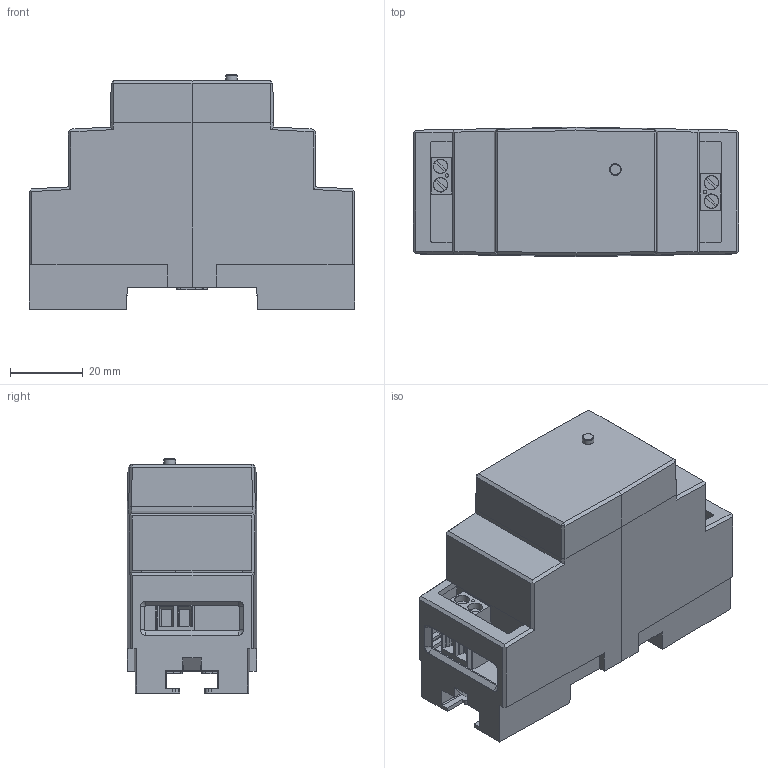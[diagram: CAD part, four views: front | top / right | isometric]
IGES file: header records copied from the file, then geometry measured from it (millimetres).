
Global section: file name: 28000876; native system: Autodesk Inventor 2017; preprocessor: unknown; author: muell; date: 20191230.105448; units: millimetre
Bounding box: 89.5 x 35.5 x 64.3 mm (x, y, z)
Volume: 132790.1 mm3; surface area: 29407.1 mm2
Topology: 1 solids, 6 shells, 744 faces, 2021 edges, 1310 vertices
Faces by surface type: bspline 744
